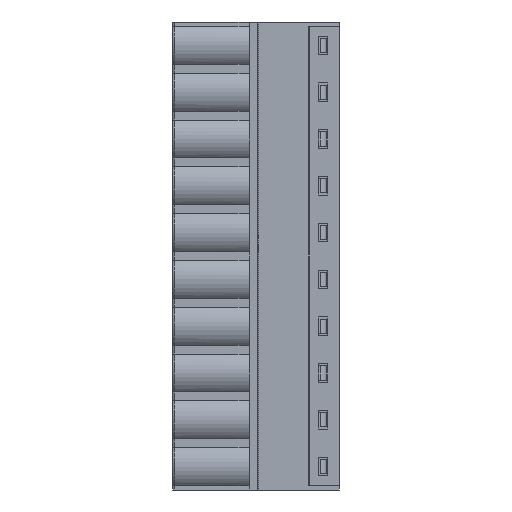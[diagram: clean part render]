
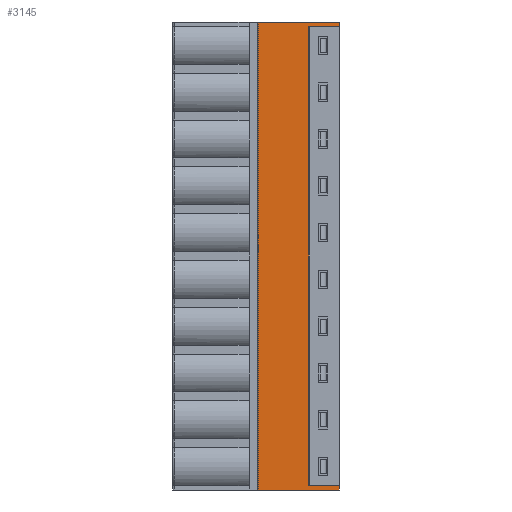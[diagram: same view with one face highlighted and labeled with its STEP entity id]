
A CAD part, left-side view. The second image highlights one B-rep face of the part: STEP entity #3145.
In plain terms, the highlighted planar face has unit normal (-1, 0, 0).
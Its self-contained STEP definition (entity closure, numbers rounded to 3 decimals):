
#452 = EDGE_CURVE ( 'NONE', #25466, #29215, #18805, .T. ) ;
#772 = CARTESIAN_POINT ( 'NONE',  ( -3.9, 1.933, 50.31 ) ) ;
#973 = AXIS2_PLACEMENT_3D ( 'NONE', #16540, #13384, #23810 ) ;
#1016 = CARTESIAN_POINT ( 'NONE',  ( -3.9, 8.8, 50.8 ) ) ;
#1752 = CARTESIAN_POINT ( 'NONE',  ( -3.9, 0., 50.31 ) ) ;
#3145 = ADVANCED_FACE ( 'NONE', ( #3726 ), #11009, .T. ) ;
#3726 = FACE_OUTER_BOUND ( 'NONE', #8963, .T. ) ;
#4443 = CARTESIAN_POINT ( 'NONE',  ( -3.9, 2.9, 0.49 ) ) ;
#5633 = ORIENTED_EDGE ( 'NONE', *, *, #10108, .T. ) ;
#5648 = B_SPLINE_CURVE_WITH_KNOTS ( 'NONE', 3,
 ( #6953, #32769, #7170, #14085 ),
 .UNSPECIFIED., .F., .F.,
 ( 4, 4 ),
 ( 0., 1. ),
 .UNSPECIFIED. ) ;
#6031 = EDGE_CURVE ( 'NONE', #31730, #6502, #31144, .T. ) ;
#6310 = VERTEX_POINT ( 'NONE', #9071 ) ;
#6502 = VERTEX_POINT ( 'NONE', #20318 ) ;
#6953 = CARTESIAN_POINT ( 'NONE',  ( -3.9, 3.3, 50.308 ) ) ;
#7170 = CARTESIAN_POINT ( 'NONE',  ( -3.9, 3.033, 50.309 ) ) ;
#7186 = ORIENTED_EDGE ( 'NONE', *, *, #15903, .F. ) ;
#7214 = DIRECTION ( 'NONE',  ( 0., -1., 0. ) ) ;
#8925 = EDGE_CURVE ( 'NONE', #29215, #6310, #39564, .T. ) ;
#8963 = EDGE_LOOP ( 'NONE', ( #18645, #26705, #39545, #13006, #24448, #13472, #5633, #7186, #23525, #13842 ) ) ;
#9071 = CARTESIAN_POINT ( 'NONE',  ( -3.9, 0., 0. ) ) ;
#9997 = DIRECTION ( 'NONE',  ( 0., 0., -1. ) ) ;
#10108 = EDGE_CURVE ( 'NONE', #17989, #10539, #39926, .T. ) ;
#10420 = LINE ( 'NONE', #22803, #16318 ) ;
#10539 = VERTEX_POINT ( 'NONE', #1752 ) ;
#11009 = PLANE ( 'NONE',  #973 ) ;
#12031 = VERTEX_POINT ( 'NONE', #19971 ) ;
#13006 = ORIENTED_EDGE ( 'NONE', *, *, #16027, .F. ) ;
#13271 = LINE ( 'NONE', #22508, #15287 ) ;
#13314 = EDGE_CURVE ( 'NONE', #16850, #17989, #5648, .T. ) ;
#13384 = DIRECTION ( 'NONE',  ( -1., 0., 0. ) ) ;
#13472 = ORIENTED_EDGE ( 'NONE', *, *, #13314, .T. ) ;
#13652 = LINE ( 'NONE', #17430, #25812 ) ;
#13776 = CARTESIAN_POINT ( 'NONE',  ( -3.9, 2.9, 50.31 ) ) ;
#13842 = ORIENTED_EDGE ( 'NONE', *, *, #26864, .T. ) ;
#14085 = CARTESIAN_POINT ( 'NONE',  ( -3.9, 2.9, 50.31 ) ) ;
#15287 = VECTOR ( 'NONE', #32782, 1000. ) ;
#15903 = EDGE_CURVE ( 'NONE', #6502, #10539, #13271, .T. ) ;
#16027 = EDGE_CURVE ( 'NONE', #12031, #25466, #18031, .T. ) ;
#16318 = VECTOR ( 'NONE', #22383, 1000. ) ;
#16540 = CARTESIAN_POINT ( 'NONE',  ( -3.9, 8.9, 0. ) ) ;
#16850 = VERTEX_POINT ( 'NONE', #16950 ) ;
#16950 = CARTESIAN_POINT ( 'NONE',  ( -3.9, 3.3, 50.308 ) ) ;
#17156 = CARTESIAN_POINT ( 'NONE',  ( -3.9, 8.8, 50.8 ) ) ;
#17430 = CARTESIAN_POINT ( 'NONE',  ( -3.9, 8.8, 0. ) ) ;
#17460 = CARTESIAN_POINT ( 'NONE',  ( -3.9, 3.033, 0.491 ) ) ;
#17989 = VERTEX_POINT ( 'NONE', #23863 ) ;
#18031 = B_SPLINE_CURVE_WITH_KNOTS ( 'NONE', 3,
 ( #20808, #26893, #17460, #4443 ),
 .UNSPECIFIED., .F., .F.,
 ( 4, 4 ),
 ( 0., 1. ),
 .UNSPECIFIED. ) ;
#18645 = ORIENTED_EDGE ( 'NONE', *, *, #34060, .T. ) ;
#18805 = B_SPLINE_CURVE_WITH_KNOTS ( 'NONE', 3,
 ( #36484, #25870, #31967, #20563 ),
 .UNSPECIFIED., .F., .F.,
 ( 4, 4 ),
 ( 0., 1. ),
 .UNSPECIFIED. ) ;
#19971 = CARTESIAN_POINT ( 'NONE',  ( -3.9, 3.3, 0.492 ) ) ;
#20318 = CARTESIAN_POINT ( 'NONE',  ( -3.9, 0., 50.8 ) ) ;
#20563 = CARTESIAN_POINT ( 'NONE',  ( -3.9, 0., 0.49 ) ) ;
#20808 = CARTESIAN_POINT ( 'NONE',  ( -3.9, 3.3, 0.492 ) ) ;
#20816 = VERTEX_POINT ( 'NONE', #28517 ) ;
#21799 = CARTESIAN_POINT ( 'NONE',  ( -3.9, 2.9, 0.49 ) ) ;
#22383 = DIRECTION ( 'NONE',  ( 0., 0., -1. ) ) ;
#22508 = CARTESIAN_POINT ( 'NONE',  ( -3.9, 0., 50.8 ) ) ;
#22599 = EDGE_CURVE ( 'NONE', #16850, #12031, #10420, .T. ) ;
#22803 = CARTESIAN_POINT ( 'NONE',  ( -3.9, 3.3, 50.308 ) ) ;
#23304 = DIRECTION ( 'NONE',  ( 0., -1., 0. ) ) ;
#23525 = ORIENTED_EDGE ( 'NONE', *, *, #6031, .F. ) ;
#23810 = DIRECTION ( 'NONE',  ( 0., 0., 1. ) ) ;
#23863 = CARTESIAN_POINT ( 'NONE',  ( -3.9, 2.9, 50.31 ) ) ;
#24448 = ORIENTED_EDGE ( 'NONE', *, *, #22599, .F. ) ;
#25466 = VERTEX_POINT ( 'NONE', #21799 ) ;
#25812 = VECTOR ( 'NONE', #23304, 1000. ) ;
#25870 = CARTESIAN_POINT ( 'NONE',  ( -3.9, 1.933, 0.49 ) ) ;
#25941 = CARTESIAN_POINT ( 'NONE',  ( -3.9, 0., 0.49 ) ) ;
#26610 = DIRECTION ( 'NONE',  ( 0., 0., -1. ) ) ;
#26705 = ORIENTED_EDGE ( 'NONE', *, *, #8925, .F. ) ;
#26775 = CARTESIAN_POINT ( 'NONE',  ( -3.9, 0., 50.31 ) ) ;
#26864 = EDGE_CURVE ( 'NONE', #31730, #20816, #29750, .T. ) ;
#26893 = CARTESIAN_POINT ( 'NONE',  ( -3.9, 3.167, 0.492 ) ) ;
#28134 = VECTOR ( 'NONE', #9997, 1000. ) ;
#28517 = CARTESIAN_POINT ( 'NONE',  ( -3.9, 8.8, 0. ) ) ;
#29215 = VERTEX_POINT ( 'NONE', #31542 ) ;
#29750 = LINE ( 'NONE', #1016, #34150 ) ;
#31144 = LINE ( 'NONE', #38681, #36566 ) ;
#31542 = CARTESIAN_POINT ( 'NONE',  ( -3.9, 0., 0.49 ) ) ;
#31730 = VERTEX_POINT ( 'NONE', #17156 ) ;
#31967 = CARTESIAN_POINT ( 'NONE',  ( -3.9, 0.967, 0.49 ) ) ;
#32769 = CARTESIAN_POINT ( 'NONE',  ( -3.9, 3.167, 50.308 ) ) ;
#32782 = DIRECTION ( 'NONE',  ( 0., 0., -1. ) ) ;
#33077 = CARTESIAN_POINT ( 'NONE',  ( -3.9, 0.967, 50.31 ) ) ;
#34060 = EDGE_CURVE ( 'NONE', #20816, #6310, #13652, .T. ) ;
#34150 = VECTOR ( 'NONE', #26610, 1000. ) ;
#36484 = CARTESIAN_POINT ( 'NONE',  ( -3.9, 2.9, 0.49 ) ) ;
#36566 = VECTOR ( 'NONE', #7214, 1000. ) ;
#38681 = CARTESIAN_POINT ( 'NONE',  ( -3.9, 8.8, 50.8 ) ) ;
#39545 = ORIENTED_EDGE ( 'NONE', *, *, #452, .F. ) ;
#39564 = LINE ( 'NONE', #25941, #28134 ) ;
#39926 = B_SPLINE_CURVE_WITH_KNOTS ( 'NONE', 3,
 ( #13776, #772, #33077, #26775 ),
 .UNSPECIFIED., .F., .F.,
 ( 4, 4 ),
 ( 0., 1. ),
 .UNSPECIFIED. ) ;
